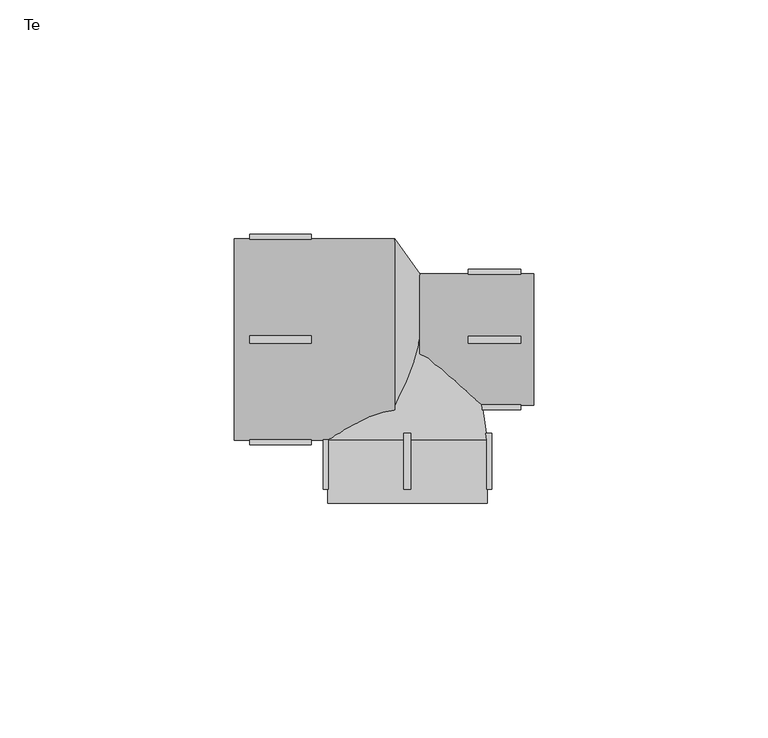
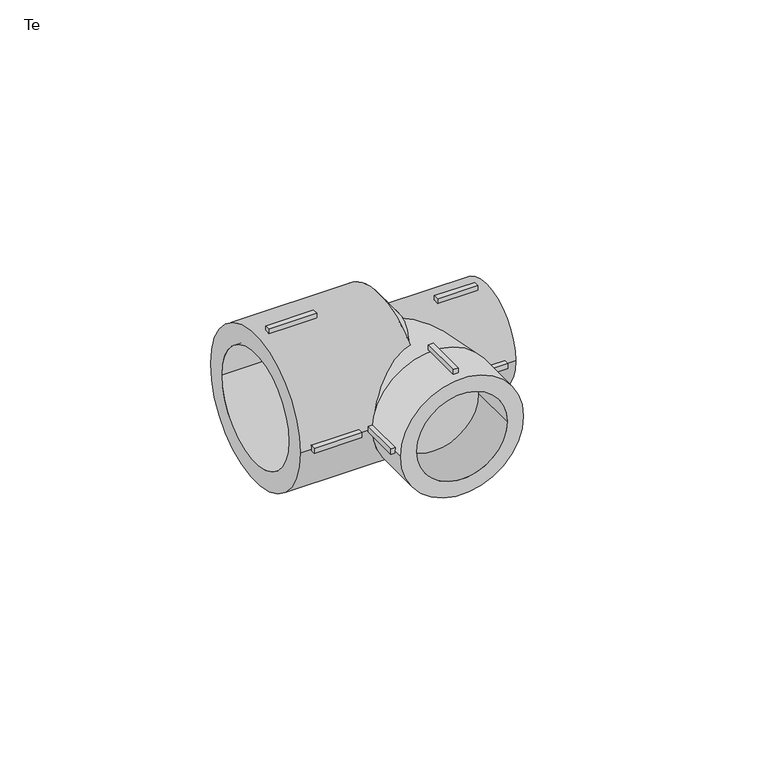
"""IFC4 building model written with IfcOpenShell, lengths in millimetres: pipe fitting geometry, EGB_VASEN_ PPR_Te WXR300_Te reducida WXR310 : Te."""

from ifc_helpers import new_model, si_unit, point, frame, origin, origin_2d, place, context, project, spatial, polyline, circle_curve, trimmed, segment, composite_curve, outline, extrude, source, transform, mapped, element, save
from ifc_brep_helpers import plane_surface, revolved_surface, advanced_brep


def te_a91944ce(model_context):
    return source(origin(), model_context, "Body", "SolidModel", [
        extrude(outline(polyline([(-0.75, -20.0), (0.75, -20.0), (0.75, -32.0), (-0.75, -32.0), (-0.75, -20.0)])), frame((0.0, 0.0, 16.0), z_axis=(0.0, 0.0, 1.0), x_axis=(1.0, 0.0, 0.0)), (0.0, 0.0, 1.0), 2.0),
        extrude(outline(polyline([(-0.75, -20.0), (0.75, -20.0), (0.75, -32.0), (-0.75, -32.0), (-0.75, -20.0)])), frame((0.0, 0.0, -18.0), z_axis=(0.0, 0.0, 1.0), x_axis=(1.0, 0.0, 0.0)), (0.0, 0.0, 1.0), 2.0),
        extrude(outline(polyline([(16.0, -20.0), (18.0, -20.0), (18.0, -32.0), (16.0, -32.0), (16.0, -20.0)])), frame((0.0, 0.0, -0.75), z_axis=(0.0, 0.0, 1.0), x_axis=(1.0, 0.0, 0.0)), (0.0, 0.0, 1.0), 1.5),
        extrude(outline(polyline([(-18.0, -20.0), (-16.0, -20.0), (-16.0, -32.0), (-18.0, -32.0), (-18.0, -20.0)])), frame((0.0, 0.0, -0.75), z_axis=(0.0, 0.0, 1.0), x_axis=(1.0, 0.0, 0.0)), (0.0, 0.0, 1.0), 1.5),
        extrude(outline(polyline([(13.0, -0.75), (13.0, 0.75), (24.2, 0.75), (24.2, -0.75), (13.0, -0.75)])), frame((0.0, 0.0, 13.0), z_axis=(0.0, 0.0, 1.0), x_axis=(1.0, 0.0, 0.0)), (0.0, 0.0, 1.0), 2.0),
        extrude(outline(polyline([(13.0, -0.75), (13.0, 0.75), (24.2, 0.75), (24.2, -0.75), (13.0, -0.75)])), frame((0.0, 0.0, -15.0), z_axis=(0.0, 0.0, 1.0), x_axis=(1.0, 0.0, 0.0)), (0.0, 0.0, 1.0), 2.0),
        extrude(outline(polyline([(13.0, 13.0), (13.0, 15.0), (24.2, 15.0), (24.2, 13.0), (13.0, 13.0)])), frame((0.0, 0.0, -0.75), z_axis=(0.0, 0.0, 1.0), x_axis=(1.0, 0.0, 0.0)), (0.0, 0.0, 1.0), 1.5),
        extrude(outline(polyline([(13.0, -15.0), (13.0, -13.0), (24.2, -13.0), (24.2, -15.0), (13.0, -15.0)])), frame((0.0, 0.0, -0.75), z_axis=(0.0, 0.0, 1.0), x_axis=(1.0, 0.0, 0.0)), (0.0, 0.0, 1.0), 1.5),
        extrude(outline(polyline([(-20.5, 0.75), (-20.5, -0.75), (-33.7, -0.75), (-33.7, 0.75), (-20.5, 0.75)])), frame((0.0, 0.0, 20.5), z_axis=(0.0, 0.0, 1.0), x_axis=(1.0, 0.0, 0.0)), (0.0, 0.0, 1.0), 2.0),
        extrude(outline(polyline([(-20.5, 0.75), (-20.5, -0.75), (-33.7, -0.75), (-33.7, 0.75), (-20.5, 0.75)])), frame((0.0, 0.0, -22.5), z_axis=(0.0, 0.0, 1.0), x_axis=(1.0, 0.0, 0.0)), (0.0, 0.0, 1.0), 2.0),
        extrude(outline(polyline([(-20.5, 22.5), (-20.5, 20.5), (-33.7, 20.5), (-33.7, 22.5), (-20.5, 22.5)])), frame((0.0, 0.0, -0.75), z_axis=(0.0, 0.0, 1.0), x_axis=(1.0, 0.0, 0.0)), (0.0, 0.0, 1.0), 1.5),
        extrude(outline(polyline([(-20.5, -20.5), (-20.5, -22.5), (-33.7, -22.5), (-33.7, -20.5), (-20.5, -20.5)])), frame((0.0, 0.0, -0.75), z_axis=(0.0, 0.0, 1.0), x_axis=(1.0, 0.0, 0.0)), (0.0, 0.0, 1.0), 1.5),
        extrude(outline(composite_curve([segment(trimmed(circle_curve(origin_2d(), 17.0), [point((0.0, 17.0))], [point((0.0, -17.0))], False, "CARTESIAN"), True, "CONTINUOUS"), segment(trimmed(circle_curve(origin_2d(), 17.0), [point((0.0, -17.0))], [point((0.0, 17.0))], False, "CARTESIAN"), True, "CONTINUOUS")], self_intersect=False), holes=[composite_curve([segment(trimmed(circle_curve(origin_2d(), 12.5), [point((0.0, 12.5))], [point((0.0, -12.5))], True, "CARTESIAN"), True, "CONTINUOUS"), segment(trimmed(circle_curve(origin_2d(), 12.5), [point((0.0, -12.5))], [point((0.0, 12.5))], True, "CARTESIAN"), True, "CONTINUOUS")], self_intersect=False)]), frame((0.0, -35.0, 0.0), z_axis=(0.0, 1.0, 0.0), x_axis=(0.0, 0.0, 1.0)), (0.0, 0.0, 1.0), 13.5),
        extrude(outline(composite_curve([segment(trimmed(circle_curve(origin_2d(), 14.0), [point((-14.0, 0.0))], [point((14.0, 0.0))], False, "CARTESIAN"), True, "CONTINUOUS"), segment(trimmed(circle_curve(origin_2d(), 14.0), [point((14.0, 0.0))], [point((-14.0, 0.0))], False, "CARTESIAN"), True, "CONTINUOUS")], self_intersect=False), holes=[composite_curve([segment(trimmed(circle_curve(origin_2d(), 10.0), [point((-10.0, 0.0))], [point((10.0, 0.0))], True, "CARTESIAN"), True, "CONTINUOUS"), segment(trimmed(circle_curve(origin_2d(), 10.0), [point((10.0, 0.0))], [point((-10.0, 0.0))], True, "CARTESIAN"), True, "CONTINUOUS")], self_intersect=False)]), frame((2.68, 0.0, 0.0), z_axis=(1.0, 0.0, 0.0), x_axis=(0.0, 1.0, 0.0)), (0.0, 0.0, 1.0), 24.32),
        extrude(outline(composite_curve([segment(trimmed(circle_curve(origin_2d(), 21.5), [point((-21.5, 0.0))], [point((21.5, 0.0))], False, "CARTESIAN"), True, "CONTINUOUS"), segment(trimmed(circle_curve(origin_2d(), 21.5), [point((21.5, 0.0))], [point((-21.5, 0.0))], False, "CARTESIAN"), True, "CONTINUOUS")], self_intersect=False), holes=[composite_curve([segment(trimmed(circle_curve(origin_2d(), 16.0), [point((-16.0, 0.0))], [point((16.0, 0.0))], True, "CARTESIAN"), True, "CONTINUOUS"), segment(trimmed(circle_curve(origin_2d(), 16.0), [point((16.0, 0.0))], [point((-16.0, 0.0))], True, "CARTESIAN"), True, "CONTINUOUS")], self_intersect=False)]), frame((-37.0, 0.0, 0.0), z_axis=(1.0, 0.0, 0.0), x_axis=(0.0, 1.0, 0.0)), (0.0, 0.0, 1.0), 34.32),
        advanced_brep(
        [(14.0, 0.0, 0.0), (-14.0, 0.0, 0.0), (17.0, -21.5, 0.0), (-17.0, -21.5, 0.0)],
        [
            (0, 1, circle_curve(frame((0.0, 0.0, 0.0), z_axis=(0.0, 1.0, 0.0), x_axis=(1.0, 0.0, 0.0)), 14.0)),
            (1, 0, circle_curve(frame((0.0, 0.0, 0.0), z_axis=(0.0, 1.0, 0.0), x_axis=(-1.0, 0.0, 0.0)), 14.0)),
            (2, 3, circle_curve(frame((0.0, -21.5, 0.0), z_axis=(0.0, -1.0, 0.0), x_axis=(-1.0, 0.0, 0.0)), 17.0)),
            (3, 2, circle_curve(frame((0.0, -21.5, 0.0), z_axis=(0.0, -1.0, 0.0), x_axis=(1.0, 0.0, 0.0)), 17.0)),
            (3, 1),
            (0, 2),
        ],
        [
            plane_surface(frame((0.0, 0.0, 0.0), z_axis=(0.0, 1.0, 0.0), x_axis=(0.0, 0.0, -1.0))),
            plane_surface(frame((0.0, -21.5, 0.0), z_axis=(0.0, -1.0, 0.0), x_axis=(0.0, 0.0, -1.0))),
            revolved_surface(polyline([(13.999999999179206, 0.0, 0.0), (17.0, -21.5, 0.0)]), (0.0, 100.3333333, 0.0), (0.0, -1.0, 0.0)),
            revolved_surface(polyline([(-13.999999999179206, 0.0, 0.0), (-17.0, -21.5, 0.0)]), (0.0, 100.3333333, 0.0), (0.0, -1.0, 0.0)),
        ],
        [
            (0, [[1, 2]]),
            (1, [[3, 4]]),
            (2, [[-4, 5, -1, 6]]),
            (3, [[-3, -6, -2, -5]]),
        ],
    ),
        advanced_brep(
        [(2.68, -14.0, 0.0), (2.68, 14.0, 0.0), (-2.68, -21.5, 0.0), (-2.68, 21.5, 0.0)],
        [
            (0, 1, circle_curve(frame((2.68, 0.0, 0.0), z_axis=(1.0, 0.0, 0.0), x_axis=(0.0, -1.0, 0.0)), 14.0)),
            (1, 0, circle_curve(frame((2.68, 0.0, 0.0), z_axis=(1.0, 0.0, 0.0), x_axis=(0.0, 1.0, 0.0)), 14.0)),
            (2, 3, circle_curve(frame((-2.68, 0.0, 0.0), z_axis=(-1.0, 0.0, 0.0), x_axis=(0.0, 1.0, 0.0)), 21.5)),
            (3, 2, circle_curve(frame((-2.68, 0.0, 0.0), z_axis=(-1.0, 0.0, 0.0), x_axis=(0.0, -1.0, 0.0)), 21.5)),
            (3, 1),
            (0, 2),
        ],
        [
            plane_surface(frame((2.68, 0.0, 0.0), z_axis=(1.0, 0.0, 0.0), x_axis=(0.0, 0.0, -1.0))),
            plane_surface(frame((-2.68, 0.0, 0.0), z_axis=(-1.0, 0.0, 0.0), x_axis=(0.0, 0.0, -1.0))),
            revolved_surface(polyline([(2.6799999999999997, -13.999999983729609, 0.0), (-2.6799999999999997, -21.5, 0.0)]), (12.6853333, 0.0, 0.0), (-1.0, 0.0, 0.0)),
            revolved_surface(polyline([(2.6799999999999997, 13.999999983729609, 0.0), (-2.6799999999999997, 21.5, 0.0)]), (12.6853333, 0.0, 0.0), (-1.0, 0.0, 0.0)),
        ],
        [
            (0, [[1, 2]]),
            (1, [[3, 4]]),
            (2, [[-4, 5, -1, 6]]),
            (3, [[-3, -6, -2, -5]]),
        ],
    ),
    ])


if __name__ == "__main__":
    model = new_model("IFC4")
    model_context = context("Model", 3, world=origin())
    ifc_project = project(units=[si_unit("LENGTHUNIT", "METRE", prefix="MILLI")], contexts=[model_context])
    site = spatial("IfcSite", under=ifc_project)
    building = spatial("IfcBuilding", under=site)
    placement = place(None, origin())
    te_shape = te_a91944ce(model_context)
    element("IfcPipeFitting", 1, ObjectType="EGB_VASEN_ PPR_Te WXR300_Te reducida WXR310 : Te", at=placement, inside=building, context=model_context, shape_type="MappedRepresentation", body=[
        mapped(te_shape, transform((0.0, 0.0, 0.0), x_axis=(1.0, 0.0, 0.0), y_axis=(0.0, 1.0, 0.0), z_axis=(0.0, 0.0, 1.0))),
    ])
    save(model, "model.ifc")
